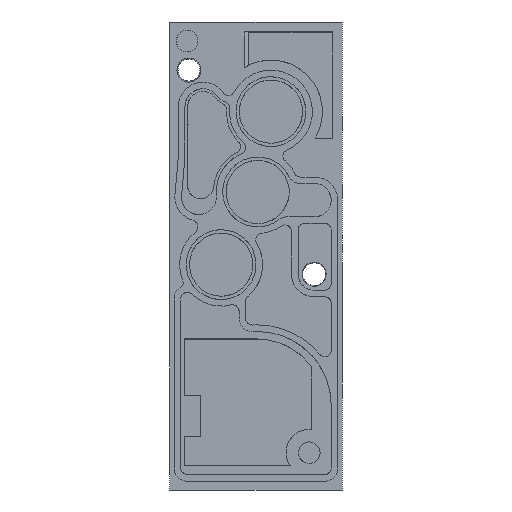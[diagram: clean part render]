
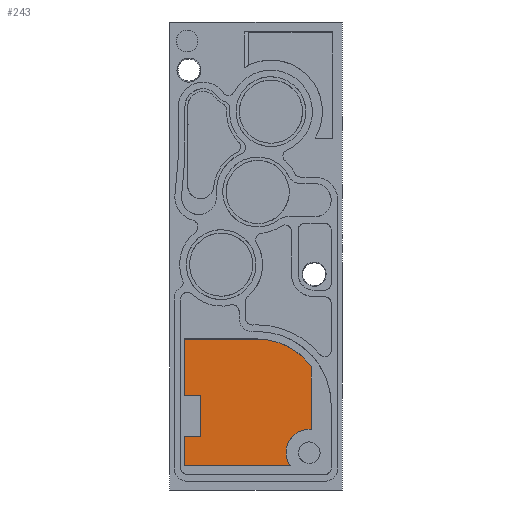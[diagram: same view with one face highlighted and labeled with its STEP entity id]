
A CAD part, left-side view. The second image highlights one B-rep face of the part: STEP entity #243.
In plain terms, the highlighted planar face has unit normal (-1, 0, 0).
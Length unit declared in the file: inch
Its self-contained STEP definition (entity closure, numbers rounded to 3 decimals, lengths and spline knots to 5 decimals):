
#38 = CARTESIAN_POINT ( 'NONE',  ( -0.48228, 0.71884, -1.03855 ) ) ;
#49 = CARTESIAN_POINT ( 'NONE',  ( -0.48228, 1.87547, -2.14225 ) ) ;
#233 = CARTESIAN_POINT ( 'NONE',  ( -0.48228, 0.53825, -1.13707 ) ) ;
#243 = ADVANCED_FACE ( 'NONE', ( #8271 ), #17316, .T. ) ;
#252 = VECTOR ( 'NONE', #2185, 39.37008 ) ;
#656 = CARTESIAN_POINT ( 'NONE',  ( -0.48228, 1.00787, -0.98477 ) ) ;
#756 = CARTESIAN_POINT ( 'NONE',  ( -0.48228, 1.87547, -1.65303 ) ) ;
#885 = CARTESIAN_POINT ( 'NONE',  ( -0.48228, 0.66688, -2.36736 ) ) ;
#1067 = CARTESIAN_POINT ( 'NONE',  ( -0.48228, 0.59999, -2.14955 ) ) ;
#1456 = CARTESIAN_POINT ( 'NONE',  ( -0.48228, 1.68059, -2.14225 ) ) ;
#1482 = EDGE_CURVE ( 'NONE', #7699, #6653, #8814, .T. ) ;
#1799 = CARTESIAN_POINT ( 'NONE',  ( -0.48228, 1.00787, -0.98477 ) ) ;
#1865 = LINE ( 'NONE', #10416, #252 ) ;
#1916 = VECTOR ( 'NONE', #16406, 39.37008 ) ;
#1986 = VERTEX_POINT ( 'NONE', #9110 ) ;
#2105 = EDGE_CURVE ( 'NONE', #14036, #4533, #5809, .T. ) ;
#2150 = CARTESIAN_POINT ( 'NONE',  ( -0.48228, 0.47022, -1.197 ) ) ;
#2185 = DIRECTION ( 'NONE',  ( 0., 0., -1. ) ) ;
#2343 = CARTESIAN_POINT ( 'NONE',  ( -0.48228, 0.79793, -1.01321 ) ) ;
#2906 = CARTESIAN_POINT ( 'NONE',  ( -0.48228, 0.66565, -2.28936 ) ) ;
#2992 = CARTESIAN_POINT ( 'NONE',  ( -0.48228, 0.54075, -2.09879 ) ) ;
#3015 = CARTESIAN_POINT ( 'NONE',  ( -0.48228, 2.06693, 2.77559 ) ) ;
#3092 = CARTESIAN_POINT ( 'NONE',  ( -0.48228, 1.87598, -2.14225 ) ) ;
#3179 = VECTOR ( 'NONE', #15838, 39.37008 ) ;
#3312 = ORIENTED_EDGE ( 'NONE', *, *, #2105, .T. ) ;
#3448 = LINE ( 'NONE', #9321, #4816 ) ;
#4164 = CARTESIAN_POINT ( 'NONE',  ( -0.48228, 0.59055, -1.10152 ) ) ;
#4462 = CARTESIAN_POINT ( 'NONE',  ( -0.48228, 0.81715, -1.00823 ) ) ;
#4533 = VERTEX_POINT ( 'NONE', #49 ) ;
#4559 = CARTESIAN_POINT ( 'NONE',  ( -0.48228, 0.88502, -0.99196 ) ) ;
#4783 = VECTOR ( 'NONE', #27009, 39.37008 ) ;
#4816 = VECTOR ( 'NONE', #20017, 39.37008 ) ;
#4950 = CARTESIAN_POINT ( 'NONE',  ( -0.48228, 0.66237, -2.3932 ) ) ;
#5123 = ORIENTED_EDGE ( 'NONE', *, *, #17776, .T. ) ;
#5219 = CARTESIAN_POINT ( 'NONE',  ( -0.48228, 0.66852, -2.31544 ) ) ;
#5270 = EDGE_CURVE ( 'NONE', #16224, #1986, #6688, .T. ) ;
#5501 = VECTOR ( 'NONE', #9147, 39.37008 ) ;
#5744 = DIRECTION ( 'NONE',  ( 0., -1., 0. ) ) ;
#5749 = CARTESIAN_POINT ( 'NONE',  ( -0.48228, 1.87547, -0.98477 ) ) ;
#5809 = LINE ( 'NONE', #3092, #3179 ) ;
#6075 = EDGE_CURVE ( 'NONE', #16224, #23985, #21613, .T. ) ;
#6296 = CARTESIAN_POINT ( 'NONE',  ( -0.48228, 0.36666, -1.31555 ) ) ;
#6583 = CARTESIAN_POINT ( 'NONE',  ( -0.48228, 0.45072, -1.2156 ) ) ;
#6653 = VERTEX_POINT ( 'NONE', #5749 ) ;
#6688 = B_SPLINE_CURVE_WITH_KNOTS ( 'NONE', 3,
 ( #7122, #11717, #13788, #17666, #13883, #2992, #9551, #1067, #18036, #22049, #9293, #2906, #5219, #885, #4950, #7038, #15731, #17843 ),
 .UNSPECIFIED., .F., .F.,
 ( 4, 2, 2, 2, 2, 2, 2, 2, 4 ),
 ( 0., 0.125, 0.25, 0.375, 0.5, 0.625, 0.75, 0.875, 1. ),
 .UNSPECIFIED. ) ;
#6956 = LINE ( 'NONE', #16350, #17302 ) ;
#7038 = CARTESIAN_POINT ( 'NONE',  ( -0.48228, 0.64634, -2.44261 ) ) ;
#7122 = CARTESIAN_POINT ( 'NONE',  ( -0.48228, 0.36666, -2.05771 ) ) ;
#7527 = LINE ( 'NONE', #22954, #1916 ) ;
#7699 = VERTEX_POINT ( 'NONE', #1799 ) ;
#8155 = EDGE_CURVE ( 'NONE', #22061, #11012, #6956, .T. ) ;
#8223 = ORIENTED_EDGE ( 'NONE', *, *, #20296, .T. ) ;
#8271 = FACE_OUTER_BOUND ( 'NONE', #13691, .T. ) ;
#8417 = CARTESIAN_POINT ( 'NONE',  ( -0.48228, 0.4874, -1.18148 ) ) ;
#8508 = CARTESIAN_POINT ( 'NONE',  ( -0.48228, 0.82101, -1.00727 ) ) ;
#8711 = CARTESIAN_POINT ( 'NONE',  ( -0.48228, 0.38458, -1.29035 ) ) ;
#8814 = LINE ( 'NONE', #656, #5501 ) ;
#9110 = CARTESIAN_POINT ( 'NONE',  ( -0.48228, 0.62023, -2.48767 ) ) ;
#9147 = DIRECTION ( 'NONE',  ( 0., 1., 0. ) ) ;
#9293 = CARTESIAN_POINT ( 'NONE',  ( -0.48228, 0.65277, -2.23904 ) ) ;
#9321 = CARTESIAN_POINT ( 'NONE',  ( -0.48228, 1.87547, -2.48819 ) ) ;
#9337 = EDGE_CURVE ( 'NONE', #6653, #22061, #27228, .T. ) ;
#9551 = CARTESIAN_POINT ( 'NONE',  ( -0.48228, 0.56219, -2.11392 ) ) ;
#10092 = ORIENTED_EDGE ( 'NONE', *, *, #6075, .T. ) ;
#10189 = CARTESIAN_POINT ( 'NONE',  ( -0.48228, 0.36666, -1.31539 ) ) ;
#10416 = CARTESIAN_POINT ( 'NONE',  ( -0.48228, 1.68059, -2.14173 ) ) ;
#10760 = CARTESIAN_POINT ( 'NONE',  ( -0.48228, 0.48451, -1.18404 ) ) ;
#11012 = VERTEX_POINT ( 'NONE', #25105 ) ;
#11717 = CARTESIAN_POINT ( 'NONE',  ( -0.48228, 0.39252, -2.05535 ) ) ;
#12649 = CARTESIAN_POINT ( 'NONE',  ( -0.48228, 0.6754, -1.05774 ) ) ;
#12924 = CARTESIAN_POINT ( 'NONE',  ( -0.48228, 1.87547, -2.48767 ) ) ;
#12947 = CARTESIAN_POINT ( 'NONE',  ( -0.48228, 0.48019, -1.1879 ) ) ;
#13113 = EDGE_CURVE ( 'NONE', #11012, #14036, #1865, .T. ) ;
#13264 = DIRECTION ( 'NONE',  ( -1., 0., 0. ) ) ;
#13386 = CARTESIAN_POINT ( 'NONE',  ( -0.48228, 0.36666, -1.31555 ) ) ;
#13496 = VERTEX_POINT ( 'NONE', #12924 ) ;
#13691 = EDGE_LOOP ( 'NONE', ( #8223, #24203, #10092, #5123, #18586, #27012, #21805, #17164, #3312, #13969 ) ) ;
#13788 = CARTESIAN_POINT ( 'NONE',  ( -0.48228, 0.41872, -2.05667 ) ) ;
#13883 = CARTESIAN_POINT ( 'NONE',  ( -0.48228, 0.49452, -2.0751 ) ) ;
#13969 = ORIENTED_EDGE ( 'NONE', *, *, #17557, .T. ) ;
#14036 = VERTEX_POINT ( 'NONE', #1456 ) ;
#15076 = CARTESIAN_POINT ( 'NONE',  ( -0.48228, 0.41348, -1.25438 ) ) ;
#15166 = CARTESIAN_POINT ( 'NONE',  ( -0.48228, 0.823, -1.00679 ) ) ;
#15731 = CARTESIAN_POINT ( 'NONE',  ( -0.48228, 0.63481, -2.46618 ) ) ;
#15838 = DIRECTION ( 'NONE',  ( 0., 1., 0. ) ) ;
#16224 = VERTEX_POINT ( 'NONE', #16844 ) ;
#16350 = CARTESIAN_POINT ( 'NONE',  ( -0.48228, 1.6811, -1.65303 ) ) ;
#16406 = DIRECTION ( 'NONE',  ( 0., -1., 0. ) ) ;
#16844 = CARTESIAN_POINT ( 'NONE',  ( -0.48228, 0.36666, -2.05771 ) ) ;
#16999 = CARTESIAN_POINT ( 'NONE',  ( -0.48228, 0.94602, -0.98477 ) ) ;
#17164 = ORIENTED_EDGE ( 'NONE', *, *, #13113, .T. ) ;
#17293 = CARTESIAN_POINT ( 'NONE',  ( -0.48228, 0.77127, -1.02087 ) ) ;
#17302 = VECTOR ( 'NONE', #5744, 39.37008 ) ;
#17316 = PLANE ( 'NONE',  #21785 ) ;
#17557 = EDGE_CURVE ( 'NONE', #4533, #13496, #3448, .T. ) ;
#17666 = CARTESIAN_POINT ( 'NONE',  ( -0.48228, 0.46972, -2.06654 ) ) ;
#17776 = EDGE_CURVE ( 'NONE', #23985, #7699, #22729, .T. ) ;
#17843 = CARTESIAN_POINT ( 'NONE',  ( -0.48228, 0.62023, -2.48767 ) ) ;
#18036 = CARTESIAN_POINT ( 'NONE',  ( -0.48228, 0.61636, -2.17004 ) ) ;
#18586 = ORIENTED_EDGE ( 'NONE', *, *, #1482, .T. ) ;
#20007 = DIRECTION ( 'NONE',  ( 0., 0., 1. ) ) ;
#20017 = DIRECTION ( 'NONE',  ( 0., 0., -1. ) ) ;
#20296 = EDGE_CURVE ( 'NONE', #13496, #1986, #7527, .T. ) ;
#21116 = DIRECTION ( 'NONE',  ( 0., 0., 1. ) ) ;
#21286 = VECTOR ( 'NONE', #21116, 39.37008 ) ;
#21402 = CARTESIAN_POINT ( 'NONE',  ( -0.48228, 0.81137, -1.00968 ) ) ;
#21613 = LINE ( 'NONE', #10189, #21286 ) ;
#21785 = AXIS2_PLACEMENT_3D ( 'NONE', #3015, #13264, #20007 ) ;
#21805 = ORIENTED_EDGE ( 'NONE', *, *, #8155, .T. ) ;
#22049 = CARTESIAN_POINT ( 'NONE',  ( -0.48228, 0.64275, -2.21479 ) ) ;
#22061 = VERTEX_POINT ( 'NONE', #756 ) ;
#22729 = B_SPLINE_CURVE_WITH_KNOTS ( 'NONE', 3,
 ( #6296, #8711, #15076, #6583, #2150, #12947, #10760, #8417, #25270, #233, #4164, #12649, #38, #17293, #2343, #21402, #4462, #8508, #15166, #4559, #16999, #23368 ),
 .UNSPECIFIED., .F., .F.,
 ( 4, 1, 1, 1, 1, 2, 2, 2, 1, 1, 1, 1, 2, 2, 4 ),
 ( 0., 0.125, 0.1875, 0.21875, 0.23437, 0.24219, 0.25, 0.5, 0.625, 0.6875, 0.71875, 0.73438, 0.74219, 0.75, 1. ),
 .UNSPECIFIED. ) ;
#22954 = CARTESIAN_POINT ( 'NONE',  ( -0.48228, 0.61925, -2.48767 ) ) ;
#23019 = CARTESIAN_POINT ( 'NONE',  ( -0.48228, 1.87547, -1.65354 ) ) ;
#23368 = CARTESIAN_POINT ( 'NONE',  ( -0.48228, 1.00787, -0.98477 ) ) ;
#23985 = VERTEX_POINT ( 'NONE', #13386 ) ;
#24203 = ORIENTED_EDGE ( 'NONE', *, *, #5270, .F. ) ;
#25105 = CARTESIAN_POINT ( 'NONE',  ( -0.48228, 1.68059, -1.65303 ) ) ;
#25270 = CARTESIAN_POINT ( 'NONE',  ( -0.48228, 0.48881, -1.18024 ) ) ;
#27009 = DIRECTION ( 'NONE',  ( 0., 0., -1. ) ) ;
#27012 = ORIENTED_EDGE ( 'NONE', *, *, #9337, .T. ) ;
#27228 = LINE ( 'NONE', #23019, #4783 ) ;
